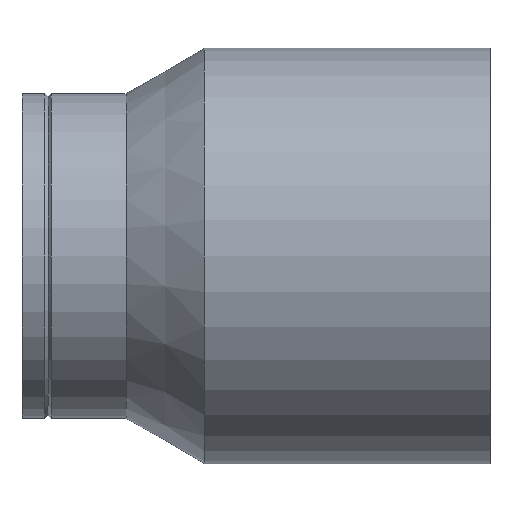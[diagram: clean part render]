
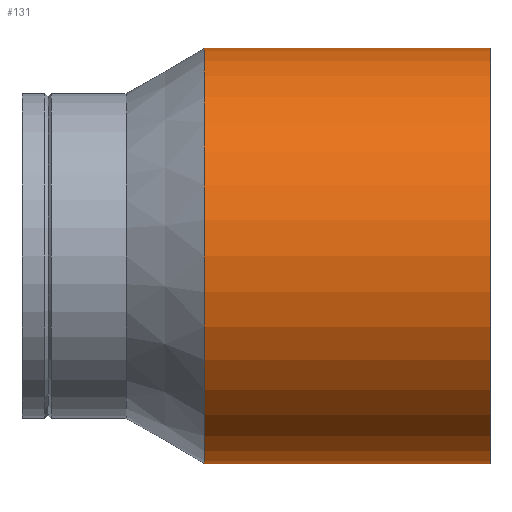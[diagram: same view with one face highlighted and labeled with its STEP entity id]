
A CAD part, front view. The second image highlights one B-rep face of the part: STEP entity #131.
In plain terms, the highlighted cylindrical face has radius 79.9 mm (diameter 159.8 mm), a full revolution.
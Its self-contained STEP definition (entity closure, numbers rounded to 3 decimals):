
#18=CYLINDRICAL_SURFACE($,#154,79.9);
#28=FACE_BOUND($,#59,.T.);
#40=FACE_OUTER_BOUND($,#58,.T.);
#58=EDGE_LOOP($,(#113));
#59=EDGE_LOOP($,(#114));
#72=CIRCLE($,#153,79.9);
#73=CIRCLE($,#155,79.9);
#83=VERTEX_POINT($,#230);
#84=VERTEX_POINT($,#233);
#94=EDGE_CURVE($,#83,#83,#72,.T.);
#95=EDGE_CURVE($,#84,#84,#73,.T.);
#113=ORIENTED_EDGE($,*,*,#95,.F.);
#114=ORIENTED_EDGE($,*,*,#94,.T.);
#131=ADVANCED_FACE($,(#40,#28),#18,.T.);
#153=AXIS2_PLACEMENT_3D($,#231,#193,#194);
#154=AXIS2_PLACEMENT_3D($,#232,#195,#196);
#155=AXIS2_PLACEMENT_3D($,#234,#197,#198);
#193=DIRECTION('center_axis',(1.,0.,0.));
#194=DIRECTION('ref_axis',(0.,1.,0.));
#195=DIRECTION('center_axis',(1.,0.,0.));
#196=DIRECTION('ref_axis',(0.,1.,0.));
#197=DIRECTION('center_axis',(1.,0.,0.));
#198=DIRECTION('ref_axis',(0.,1.,0.));
#230=CARTESIAN_POINT('',(70.138,79.9,0.));
#231=CARTESIAN_POINT('Origin',(70.138,0.,0.));
#232=CARTESIAN_POINT('Origin',(125.069,0.,0.));
#233=CARTESIAN_POINT('',(180.,79.9,0.));
#234=CARTESIAN_POINT('Origin',(180.,0.,0.));
